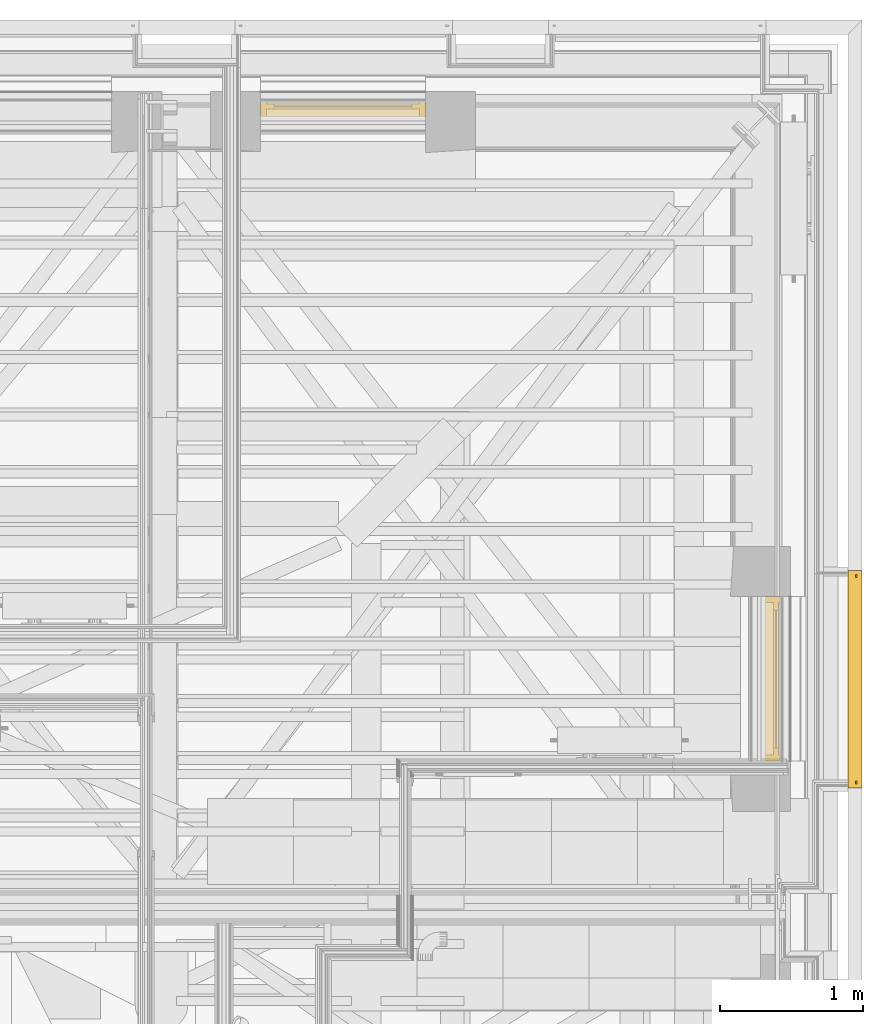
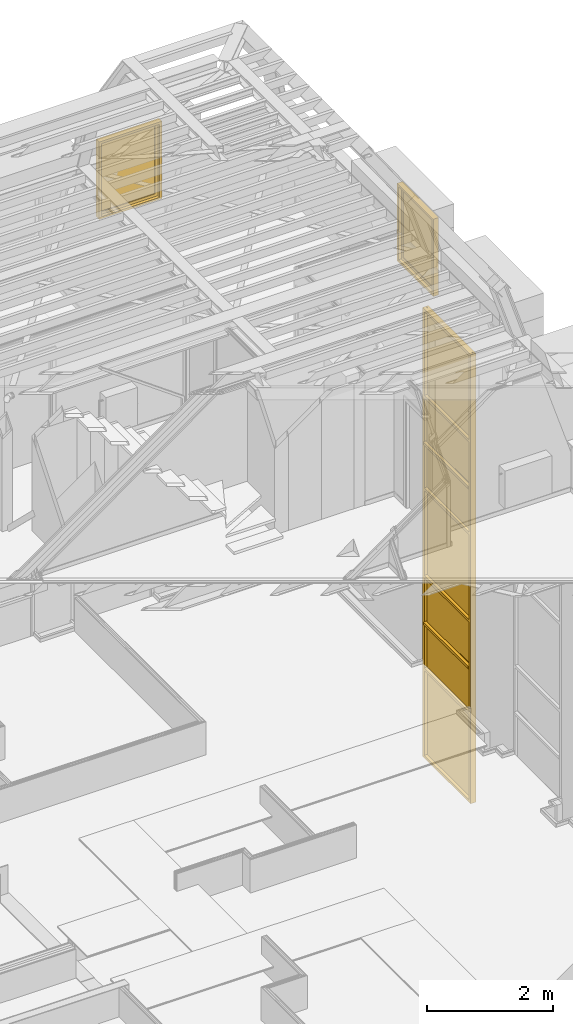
# One storey, part 155 of 183: 2 windows, 1 curtain wall.
"""IFC2X3 building model written with IfcOpenShell, lengths in metres."""

from ifc_helpers import new_model, entity, si_unit, converted_unit, derived_unit, money_unit, direction, frame, origin_with_axes, place, context, subcontext, project, spatial, faceted_brep, material, type_object, element, save


model = new_model("IFC2X3")

# Units and contexts
model_context = context("Model", 3, precision=1e-05, world=origin_with_axes(), true_north=direction((0.0, 1.0)))
body_context = subcontext(model_context, "Body", "Model", "MODEL_VIEW", scale=1.0)
ifc_project = project(units=[si_unit("LENGTHUNIT", "METRE"), si_unit("AREAUNIT", "SQUARE_METRE"), si_unit("VOLUMEUNIT", "CUBIC_METRE"), si_unit("ABSORBEDDOSEUNIT", "GRAY"), si_unit("AMOUNTOFSUBSTANCEUNIT", "MOLE"), si_unit("DOSEEQUIVALENTUNIT", "SIEVERT"), si_unit("ELECTRICCAPACITANCEUNIT", "FARAD"), si_unit("ELECTRICCHARGEUNIT", "COULOMB"), si_unit("ELECTRICCONDUCTANCEUNIT", "SIEMENS"), si_unit("ELECTRICCURRENTUNIT", "AMPERE"), si_unit("ELECTRICRESISTANCEUNIT", "OHM"), si_unit("ELECTRICVOLTAGEUNIT", "VOLT"), si_unit("ENERGYUNIT", "JOULE"), si_unit("FORCEUNIT", "NEWTON"), si_unit("FREQUENCYUNIT", "HERTZ"), si_unit("ILLUMINANCEUNIT", "LUX"), si_unit("INDUCTANCEUNIT", "HENRY"), si_unit("LUMINOUSFLUXUNIT", "LUMEN"), si_unit("LUMINOUSINTENSITYUNIT", "CANDELA"), si_unit("MAGNETICFLUXDENSITYUNIT", "TESLA"), si_unit("MAGNETICFLUXUNIT", "WEBER"), si_unit("MASSUNIT", "GRAM"), converted_unit("PLANEANGLEUNIT", "degree", entity("IfcReal", 0.0174532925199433), si_unit("PLANEANGLEUNIT", "RADIAN"), dimensions=[0, 0, 0, 0, 0, 0, 0]), si_unit("POWERUNIT", "WATT"), si_unit("PRESSUREUNIT", "PASCAL"), si_unit("RADIOACTIVITYUNIT", "BECQUEREL"), si_unit("SOLIDANGLEUNIT", "STERADIAN"), si_unit("THERMODYNAMICTEMPERATUREUNIT", "KELVIN"), si_unit("TIMEUNIT", "SECOND"), derived_unit("ACCELERATIONUNIT", [(si_unit("LENGTHUNIT", "METRE"), 1), (si_unit("TIMEUNIT", "SECOND"), -2)]), derived_unit("ANGULARVELOCITYUNIT", [(converted_unit("PLANEANGLEUNIT", "degree", entity("IfcReal", 0.0174532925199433), si_unit("PLANEANGLEUNIT", "RADIAN"), dimensions=[0, 0, 0, 0, 0, 0, 0]), 1), (si_unit("TIMEUNIT", "SECOND"), -1)]), derived_unit("CURVATUREUNIT", [(converted_unit("PLANEANGLEUNIT", "degree", entity("IfcReal", 0.0174532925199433), si_unit("PLANEANGLEUNIT", "RADIAN"), dimensions=[0, 0, 0, 0, 0, 0, 0]), 1), (si_unit("LENGTHUNIT", "METRE"), -1)]), derived_unit("DYNAMICVISCOSITYUNIT", [(si_unit("PRESSUREUNIT", "PASCAL"), 1), (si_unit("TIMEUNIT", "SECOND"), 1)]), derived_unit("HEATFLUXDENSITYUNIT", [(si_unit("POWERUNIT", "WATT"), 1), (si_unit("LENGTHUNIT", "METRE"), -2)]), derived_unit("HEATINGVALUEUNIT", [(si_unit("ENERGYUNIT", "JOULE"), 1), (si_unit("MASSUNIT", "GRAM"), -1)]), derived_unit("INTEGERCOUNTRATEUNIT", [(si_unit("TIMEUNIT", "SECOND"), -1)]), derived_unit("IONCONCENTRATIONUNIT", [(si_unit("MASSUNIT", "GRAM"), 1), (si_unit("VOLUMEUNIT", "CUBIC_METRE"), -1)]), derived_unit("ISOTHERMALMOISTURECAPACITYUNIT", [(si_unit("VOLUMEUNIT", "CUBIC_METRE"), 1), (si_unit("MASSUNIT", "GRAM"), -1)]), derived_unit("KINEMATICVISCOSITYUNIT", [(si_unit("AREAUNIT", "SQUARE_METRE"), 1), (si_unit("TIMEUNIT", "SECOND"), -1)]), derived_unit("LINEARFORCEUNIT", [(si_unit("FORCEUNIT", "NEWTON"), 1), (si_unit("LENGTHUNIT", "METRE"), -1)]), derived_unit("LINEARMOMENTUNIT", [(si_unit("FORCEUNIT", "NEWTON"), 1), (si_unit("LENGTHUNIT", "METRE"), -1)]), derived_unit("LINEARSTIFFNESSUNIT", [(si_unit("FORCEUNIT", "NEWTON"), 1), (si_unit("LENGTHUNIT", "METRE"), -1)]), derived_unit("LINEARVELOCITYUNIT", [(si_unit("LENGTHUNIT", "METRE"), 1), (si_unit("TIMEUNIT", "SECOND"), -1)]), derived_unit("LUMINOUSINTENSITYDISTRIBUTIONUNIT", [(si_unit("LUMINOUSINTENSITYUNIT", "CANDELA"), 1), (si_unit("LUMINOUSFLUXUNIT", "LUMEN"), -1)]), derived_unit("MASSDENSITYUNIT", [(si_unit("MASSUNIT", "GRAM"), 1), (si_unit("VOLUMEUNIT", "CUBIC_METRE"), -1)]), derived_unit("MASSFLOWRATEUNIT", [(si_unit("MASSUNIT", "GRAM"), 1), (si_unit("TIMEUNIT", "SECOND"), -1)]), derived_unit("MASSPERLENGTHUNIT", [(si_unit("MASSUNIT", "GRAM"), 1), (si_unit("LENGTHUNIT", "METRE"), -1)]), derived_unit("MODULUSOFELASTICITYUNIT", [(si_unit("FORCEUNIT", "NEWTON"), 1), (si_unit("AREAUNIT", "SQUARE_METRE"), -1)]), derived_unit("MODULUSOFLINEARSUBGRADEREACTIONUNIT", [(si_unit("FORCEUNIT", "NEWTON"), 1), (si_unit("LENGTHUNIT", "METRE"), -2)]), derived_unit("MODULUSOFROTATIONALSUBGRADEREACTIONUNIT", [(si_unit("FORCEUNIT", "NEWTON"), 1), (si_unit("LENGTHUNIT", "METRE"), 1)]), derived_unit("MODULUSOFSUBGRADEREACTIONUNIT", [(si_unit("FORCEUNIT", "NEWTON"), 1), (si_unit("VOLUMEUNIT", "CUBIC_METRE"), -1)]), derived_unit("MOISTUREDIFFUSIVITYUNIT", [(si_unit("VOLUMEUNIT", "CUBIC_METRE"), 1), (si_unit("TIMEUNIT", "SECOND"), -1)]), derived_unit("MOLECULARWEIGHTUNIT", [(si_unit("MASSUNIT", "GRAM"), 1), (si_unit("AMOUNTOFSUBSTANCEUNIT", "MOLE"), -1)]), derived_unit("PLANARFORCEUNIT", [(si_unit("FORCEUNIT", "NEWTON"), 1), (si_unit("LENGTHUNIT", "METRE"), -2)]), derived_unit("ROTATIONALFREQUENCYUNIT", [(si_unit("TIMEUNIT", "SECOND"), -1)]), derived_unit("ROTATIONALMASSUNIT", [(si_unit("MASSUNIT", "GRAM"), 1), (si_unit("LENGTHUNIT", "METRE"), 2)]), derived_unit("ROTATIONALSTIFFNESSUNIT", [(si_unit("FORCEUNIT", "NEWTON"), 1), (si_unit("LENGTHUNIT", "METRE"), 1), (converted_unit("PLANEANGLEUNIT", "degree", entity("IfcReal", 0.0174532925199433), si_unit("PLANEANGLEUNIT", "RADIAN"), dimensions=[0, 0, 0, 0, 0, 0, 0]), -1)]), derived_unit("SECTIONAREAINTEGRALUNIT", [(si_unit("LENGTHUNIT", "METRE"), 5)]), derived_unit("SECTIONMODULUSUNIT", [(si_unit("LENGTHUNIT", "METRE"), 3)]), derived_unit("SHEARMODULUSUNIT", [(si_unit("FORCEUNIT", "NEWTON"), 1), (si_unit("AREAUNIT", "SQUARE_METRE"), -1)]), derived_unit("SOUNDPOWERUNIT", [(si_unit("ENERGYUNIT", "JOULE"), 1), (si_unit("TIMEUNIT", "SECOND"), -1)]), derived_unit("SPECIFICHEATCAPACITYUNIT", [(si_unit("FORCEUNIT", "NEWTON"), 1), (si_unit("MASSUNIT", "GRAM"), -1), (si_unit("THERMODYNAMICTEMPERATUREUNIT", "KELVIN"), -1)]), derived_unit("TEMPERATUREGRADIENTUNIT", [(si_unit("THERMODYNAMICTEMPERATUREUNIT", "KELVIN"), 1), (si_unit("LENGTHUNIT", "METRE"), -1)]), derived_unit("THERMALADMITTANCEUNIT", [(si_unit("POWERUNIT", "WATT"), 1), (si_unit("AREAUNIT", "SQUARE_METRE"), -1), (si_unit("THERMODYNAMICTEMPERATUREUNIT", "KELVIN"), -1)]), derived_unit("THERMALCONDUCTANCEUNIT", [(si_unit("POWERUNIT", "WATT"), 1), (si_unit("LENGTHUNIT", "METRE"), -1), (si_unit("THERMODYNAMICTEMPERATUREUNIT", "KELVIN"), -1)]), derived_unit("THERMALEXPANSIONCOEFFICIENTUNIT", [(si_unit("THERMODYNAMICTEMPERATUREUNIT", "KELVIN"), -1)]), derived_unit("THERMALRESISTANCEUNIT", [(si_unit("AREAUNIT", "SQUARE_METRE"), 1), (si_unit("POWERUNIT", "WATT"), -1)]), derived_unit("THERMALTRANSMITTANCEUNIT", [(si_unit("POWERUNIT", "WATT"), 1), (si_unit("AREAUNIT", "SQUARE_METRE"), -1), (si_unit("THERMODYNAMICTEMPERATUREUNIT", "KELVIN"), -1)]), derived_unit("TORQUEUNIT", [(si_unit("FORCEUNIT", "NEWTON"), 1), (si_unit("LENGTHUNIT", "METRE"), 1)]), derived_unit("VAPORPERMEABILITYUNIT", [(si_unit("MASSUNIT", "GRAM"), 1), (si_unit("TIMEUNIT", "SECOND"), -1)]), derived_unit("VOLUMETRICFLOWRATEUNIT", [(si_unit("VOLUMEUNIT", "CUBIC_METRE"), 1), (si_unit("TIMEUNIT", "SECOND"), -1)]), derived_unit("WARPINGCONSTANTUNIT", [(si_unit("LENGTHUNIT", "METRE"), 6)]), derived_unit("WARPINGMOMENTUNIT", [(si_unit("FORCEUNIT", "NEWTON"), 1), (si_unit("LENGTHUNIT", "METRE"), 2)]), money_unit("GBP")], contexts=[model_context])

# Site, building, storey
site_placement = place(None, origin_with_axes())
site = spatial("IfcSite", under=ifc_project, at=site_placement, Name="Site", CompositionType="ELEMENT")
building_placement = place(site_placement, origin_with_axes())
building = spatial("IfcBuilding", under=site, at=building_placement, Name="Building01", CompositionType="ELEMENT")
storey_placement = place(building_placement, frame((0.0, 0.0, 5.15), z_axis=(0.0, 0.0, 1.0), x_axis=(1.0, 0.0, 0.0)))
storey = spatial("IfcBuildingStorey", under=building, at=storey_placement, Name="1F", CompositionType="ELEMENT", Elevation=5.15)

# Curtain wall
ifc_material_1 = material(Name="A-CurtainWall_Frame")
curtain_wall_type = type_object("IfcCurtainWallType", Name="Pattern - Maximum Spacing", PredefinedType="NOTDEFINED")
curtain_wall_placement = place(storey_placement, frame((0.0, 0.0, -5.15), z_axis=(0.0, 0.0, 1.0), x_axis=(1.0, 0.0, 0.0)))
element("IfcCurtainWall", 1, at=curtain_wall_placement, inside=storey, type_object=curtain_wall_type, material=ifc_material_1, Name="30", ObjectType="Pattern - Maximum Spacing", context=body_context, shape_type="Brep", body=[
    faceted_brep([(26.935, 9.56718, 6.045508), (26.945, 9.56718, 6.045508), (26.945, 9.56718, 7.729632), (26.935, 9.56718, 7.729632), (26.935, 11.02718, 6.045508), (26.945, 11.02718, 6.045508), (26.935, 11.02718, 7.729632), (26.945, 11.02718, 7.729632)], [[[0, 1, 2, 3]], [[4, 5, 1, 0]], [[6, 7, 5, 4]], [[3, 2, 7, 6]], [[1, 5, 7, 2]], [[3, 6, 4, 0]]]),
    faceted_brep([(26.935, 9.56718, 6.015508), (26.945, 9.56718, 6.015508), (26.945, 9.58718, 6.015508), (26.98, 9.58718, 6.015508), (26.98, 9.53718, 6.015508), (26.88, 9.53718, 6.015508), (26.88, 9.58718, 6.015508), (26.935, 9.58718, 6.015508), (26.935, 9.58718, 7.734632), (26.935, 9.56718, 7.734632), (26.945, 9.56718, 7.734632), (26.945, 9.58718, 7.734632), (26.98, 9.58718, 7.734632), (26.98, 9.53718, 7.734632), (26.88, 9.53718, 7.734632), (26.88, 9.58718, 7.734632)], [[[0, 1, 2, 3, 4, 5, 6, 7]], [[7, 8, 9, 0]], [[0, 9, 10, 1]], [[1, 10, 11, 2]], [[2, 11, 12, 3]], [[3, 12, 13, 4]], [[4, 13, 14, 5]], [[5, 14, 15, 6]], [[6, 15, 8, 7]]]),
    faceted_brep([(26.935, 11.00718, 6.045508), (26.945, 11.00718, 6.045508), (26.945, 11.00718, 6.065508), (26.98, 11.00718, 6.065508), (26.98, 11.00718, 6.015508), (26.88, 11.00718, 6.015508), (26.88, 11.00718, 6.065508), (26.935, 11.00718, 6.065508), (26.935, 9.58718, 6.065508), (26.935, 9.58718, 6.045508), (26.945, 9.58718, 6.045508), (26.945, 9.58718, 6.065508), (26.98, 9.58718, 6.065508), (26.98, 9.58718, 6.015508), (26.88, 9.58718, 6.015508), (26.88, 9.58718, 6.065508)], [[[0, 1, 2, 3, 4, 5, 6, 7]], [[7, 8, 9, 0]], [[0, 9, 10, 1]], [[1, 10, 11, 2]], [[2, 11, 12, 3]], [[3, 12, 13, 4]], [[4, 13, 14, 5]], [[5, 14, 15, 6]], [[6, 15, 8, 7]], [[8, 15, 14, 13, 12, 11, 10, 9]]]),
    faceted_brep([(26.88, 11.00718, 6.015508), (26.88, 11.00718, 7.734632), (26.88, 11.05718, 7.734632), (26.88, 11.05718, 6.015508), (26.935, 11.00718, 6.015508), (26.935, 11.00718, 7.734632), (26.935, 11.02718, 6.015508), (26.935, 11.02718, 7.734632), (26.945, 11.02718, 6.015508), (26.945, 11.02718, 7.734632), (26.945, 11.00718, 6.015508), (26.945, 11.00718, 7.734632), (26.98, 11.00718, 6.015508), (26.98, 11.00718, 7.734632), (26.98, 11.05718, 6.015508), (26.98, 11.05718, 7.734632)], [[[0, 1, 2, 3]], [[4, 5, 1, 0]], [[6, 7, 5, 4]], [[8, 9, 7, 6]], [[10, 11, 9, 8]], [[12, 13, 11, 10]], [[14, 15, 13, 12]], [[3, 2, 15, 14]], [[14, 12, 10, 8, 6, 4, 0, 3]]]),
    faceted_brep([(26.935, 9.58718, 7.729632), (26.945, 9.58718, 7.729632), (26.945, 9.58718, 7.709632), (26.98, 9.58718, 7.709632), (26.98, 9.58718, 7.759632), (26.945, 9.58718, 7.759632), (26.945, 9.58718, 7.739632), (26.935, 9.58718, 7.739632), (26.935, 9.58718, 7.759632), (26.88, 9.58718, 7.759632), (26.88, 9.58718, 7.709632), (26.935, 9.58718, 7.709632), (26.935, 11.00718, 7.709632), (26.935, 11.00718, 7.729632), (26.945, 11.00718, 7.729632), (26.945, 11.00718, 7.709632), (26.98, 11.00718, 7.709632), (26.98, 11.00718, 7.759632), (26.945, 11.00718, 7.759632), (26.935, 11.00718, 7.739632), (26.935, 11.00718, 7.759632), (26.945, 11.00718, 7.739632), (26.88, 11.00718, 7.709632), (26.88, 11.00718, 7.759632)], [[[0, 1, 2, 3, 4, 5, 6, 7, 8, 9, 10, 11]], [[11, 12, 13, 0]], [[0, 13, 14, 1]], [[1, 14, 15, 2]], [[2, 15, 16, 3]], [[3, 16, 17, 4]], [[4, 17, 18, 5]], [[7, 19, 20, 8]], [[6, 21, 19, 7]], [[5, 18, 21, 6]], [[10, 22, 12, 11]], [[9, 23, 22, 10]], [[8, 20, 23, 9]], [[20, 19, 21, 18, 17, 16, 15, 14, 13, 12, 22, 23]]]),
    faceted_brep([(26.93, 9.56718, 7.739632), (26.95, 9.56718, 7.739632), (26.95, 9.56718, 8.626522), (26.93, 9.56718, 8.626522), (26.93, 11.02718, 7.739632), (26.95, 11.02718, 7.739632), (26.93, 11.02718, 8.626522), (26.95, 11.02718, 8.626522)], [[[0, 1, 2, 3]], [[4, 5, 1, 0]], [[6, 7, 5, 4]], [[3, 2, 7, 6]], [[1, 5, 7, 2]], [[3, 6, 4, 0]]]),
    faceted_brep([(26.88, 9.58718, 8.631522), (26.88, 9.58718, 7.734632), (26.88, 9.53718, 7.734632), (26.88, 9.53718, 8.631522), (26.935, 9.58718, 8.631522), (26.935, 9.58718, 7.734632), (26.935, 9.56718, 8.631522), (26.935, 9.56718, 7.734632), (26.945, 9.56718, 8.631522), (26.945, 9.56718, 7.734632), (26.945, 9.58718, 8.631522), (26.945, 9.58718, 7.734632), (26.98, 9.58718, 8.631522), (26.98, 9.58718, 7.734632), (26.98, 9.53718, 8.631522), (26.98, 9.53718, 7.734632)], [[[0, 1, 2, 3]], [[4, 5, 1, 0]], [[6, 7, 5, 4]], [[8, 9, 7, 6]], [[10, 11, 9, 8]], [[12, 13, 11, 10]], [[14, 15, 13, 12]], [[3, 2, 15, 14]]]),
    faceted_brep([(26.88, 11.00718, 7.734632), (26.88, 11.00718, 8.631522), (26.88, 11.05718, 8.631522), (26.88, 11.05718, 7.734632), (26.935, 11.00718, 7.734632), (26.935, 11.00718, 8.631522), (26.935, 11.02718, 7.734632), (26.935, 11.02718, 8.631522), (26.945, 11.02718, 7.734632), (26.945, 11.02718, 8.631522), (26.945, 11.00718, 7.734632), (26.945, 11.00718, 8.631522), (26.98, 11.00718, 7.734632), (26.98, 11.00718, 8.631522), (26.98, 11.05718, 7.734632), (26.98, 11.05718, 8.631522)], [[[0, 1, 2, 3]], [[4, 5, 1, 0]], [[6, 7, 5, 4]], [[8, 9, 7, 6]], [[10, 11, 9, 8]], [[12, 13, 11, 10]], [[14, 15, 13, 12]], [[3, 2, 15, 14]]]),
    faceted_brep([(26.9175, 9.58718, 8.626522), (26.9275, 9.58718, 8.626522), (26.9275, 9.58718, 8.606522), (26.9625, 9.58718, 8.606522), (26.9625, 9.58718, 8.656522), (26.9275, 9.58718, 8.656522), (26.9275, 9.58718, 8.636522), (26.9175, 9.58718, 8.636522), (26.9175, 9.58718, 8.656522), (26.8625, 9.58718, 8.656522), (26.8625, 9.58718, 8.606522), (26.9175, 9.58718, 8.606522), (26.9175, 11.00718, 8.606522), (26.9175, 11.00718, 8.626522), (26.9275, 11.00718, 8.626522), (26.9275, 11.00718, 8.606522), (26.9625, 11.00718, 8.606522), (26.9625, 11.00718, 8.656522), (26.9275, 11.00718, 8.656522), (26.9175, 11.00718, 8.636522), (26.9175, 11.00718, 8.656522), (26.9275, 11.00718, 8.636522), (26.8625, 11.00718, 8.606522), (26.8625, 11.00718, 8.656522)], [[[0, 1, 2, 3, 4, 5, 6, 7, 8, 9, 10, 11]], [[11, 12, 13, 0]], [[0, 13, 14, 1]], [[1, 14, 15, 2]], [[2, 15, 16, 3]], [[3, 16, 17, 4]], [[4, 17, 18, 5]], [[7, 19, 20, 8]], [[6, 21, 19, 7]], [[5, 18, 21, 6]], [[10, 22, 12, 11]], [[9, 23, 22, 10]], [[8, 20, 23, 9]], [[20, 19, 21, 18, 17, 16, 15, 14, 13, 12, 22, 23]]]),
    faceted_brep([(26.93, 9.56718, 8.636522), (26.95, 9.56718, 8.636522), (26.95, 9.56718, 9.523411), (26.93, 9.56718, 9.523411), (26.93, 11.02718, 8.636522), (26.95, 11.02718, 8.636522), (26.93, 11.02718, 9.523411), (26.95, 11.02718, 9.523411)], [[[0, 1, 2, 3]], [[4, 5, 1, 0]], [[6, 7, 5, 4]], [[3, 2, 7, 6]], [[1, 5, 7, 2]], [[3, 6, 4, 0]]]),
    faceted_brep([(26.88, 9.58718, 9.528411), (26.88, 9.58718, 8.631522), (26.88, 9.53718, 8.631522), (26.88, 9.53718, 9.528411), (26.935, 9.58718, 9.528411), (26.935, 9.58718, 8.631522), (26.935, 9.56718, 9.528411), (26.935, 9.56718, 8.631522), (26.945, 9.56718, 9.528411), (26.945, 9.56718, 8.631522), (26.945, 9.58718, 9.528411), (26.945, 9.58718, 8.631522), (26.98, 9.58718, 9.528411), (26.98, 9.58718, 8.631522), (26.98, 9.53718, 9.528411), (26.98, 9.53718, 8.631522)], [[[0, 1, 2, 3]], [[4, 5, 1, 0]], [[6, 7, 5, 4]], [[8, 9, 7, 6]], [[10, 11, 9, 8]], [[12, 13, 11, 10]], [[14, 15, 13, 12]], [[3, 2, 15, 14]]]),
    faceted_brep([(26.88, 11.00718, 8.631522), (26.88, 11.00718, 9.528411), (26.88, 11.05718, 9.528411), (26.88, 11.05718, 8.631522), (26.935, 11.00718, 8.631522), (26.935, 11.00718, 9.528411), (26.935, 11.02718, 8.631522), (26.935, 11.02718, 9.528411), (26.945, 11.02718, 8.631522), (26.945, 11.02718, 9.528411), (26.945, 11.00718, 8.631522), (26.945, 11.00718, 9.528411), (26.98, 11.00718, 8.631522), (26.98, 11.00718, 9.528411), (26.98, 11.05718, 8.631522), (26.98, 11.05718, 9.528411)], [[[0, 1, 2, 3]], [[4, 5, 1, 0]], [[6, 7, 5, 4]], [[8, 9, 7, 6]], [[10, 11, 9, 8]], [[12, 13, 11, 10]], [[14, 15, 13, 12]], [[3, 2, 15, 14]]]),
    faceted_brep([(26.935, 9.58718, 9.523411), (26.945, 9.58718, 9.523411), (26.945, 9.58718, 9.503411), (26.98, 9.58718, 9.503411), (26.98, 9.58718, 9.553411), (26.945, 9.58718, 9.553411), (26.945, 9.58718, 9.533411), (26.935, 9.58718, 9.533411), (26.935, 9.58718, 9.553411), (26.88, 9.58718, 9.553411), (26.88, 9.58718, 9.503411), (26.935, 9.58718, 9.503411), (26.935, 11.00718, 9.503411), (26.935, 11.00718, 9.523411), (26.945, 11.00718, 9.523411), (26.945, 11.00718, 9.503411), (26.98, 11.00718, 9.503411), (26.98, 11.00718, 9.553411), (26.945, 11.00718, 9.553411), (26.935, 11.00718, 9.533411), (26.935, 11.00718, 9.553411), (26.945, 11.00718, 9.533411), (26.88, 11.00718, 9.503411), (26.88, 11.00718, 9.553411)], [[[0, 1, 2, 3, 4, 5, 6, 7, 8, 9, 10, 11]], [[11, 12, 13, 0]], [[0, 13, 14, 1]], [[1, 14, 15, 2]], [[2, 15, 16, 3]], [[3, 16, 17, 4]], [[4, 17, 18, 5]], [[7, 19, 20, 8]], [[6, 21, 19, 7]], [[5, 18, 21, 6]], [[10, 22, 12, 11]], [[9, 23, 22, 10]], [[8, 20, 23, 9]], [[20, 19, 21, 18, 17, 16, 15, 14, 13, 12, 22, 23]]]),
    faceted_brep([(26.935, 9.56718, 9.533411), (26.945, 9.56718, 9.533411), (26.945, 9.56718, 11.217536), (26.935, 9.56718, 11.217536), (26.935, 11.02718, 9.533411), (26.945, 11.02718, 9.533411), (26.935, 11.02718, 11.217536), (26.945, 11.02718, 11.217536)], [[[0, 1, 2, 3]], [[4, 5, 1, 0]], [[6, 7, 5, 4]], [[3, 2, 7, 6]], [[1, 5, 7, 2]], [[3, 6, 4, 0]]]),
    faceted_brep([(26.88, 9.58718, 11.222536), (26.88, 9.58718, 9.528411), (26.88, 9.53718, 9.528411), (26.88, 9.53718, 11.222536), (26.935, 9.58718, 11.222536), (26.935, 9.58718, 9.528411), (26.935, 9.56718, 11.222536), (26.935, 9.56718, 9.528411), (26.945, 9.56718, 11.222536), (26.945, 9.56718, 9.528411), (26.945, 9.58718, 11.222536), (26.945, 9.58718, 9.528411), (26.98, 9.58718, 11.222536), (26.98, 9.58718, 9.528411), (26.98, 9.53718, 11.222536), (26.98, 9.53718, 9.528411)], [[[0, 1, 2, 3]], [[4, 5, 1, 0]], [[6, 7, 5, 4]], [[8, 9, 7, 6]], [[10, 11, 9, 8]], [[12, 13, 11, 10]], [[14, 15, 13, 12]], [[3, 2, 15, 14]]]),
    faceted_brep([(26.88, 11.00718, 9.528411), (26.88, 11.00718, 11.222536), (26.88, 11.05718, 11.222536), (26.88, 11.05718, 9.528411), (26.935, 11.00718, 9.528411), (26.935, 11.00718, 11.222536), (26.935, 11.02718, 9.528411), (26.935, 11.02718, 11.222536), (26.945, 11.02718, 9.528411), (26.945, 11.02718, 11.222536), (26.945, 11.00718, 9.528411), (26.945, 11.00718, 11.222536), (26.98, 11.00718, 9.528411), (26.98, 11.00718, 11.222536), (26.98, 11.05718, 9.528411), (26.98, 11.05718, 11.222536)], [[[0, 1, 2, 3]], [[4, 5, 1, 0]], [[6, 7, 5, 4]], [[8, 9, 7, 6]], [[10, 11, 9, 8]], [[12, 13, 11, 10]], [[14, 15, 13, 12]], [[3, 2, 15, 14]]]),
    faceted_brep([(26.935, 9.58718, 11.217536), (26.945, 9.58718, 11.217536), (26.945, 9.58718, 11.197536), (26.98, 9.58718, 11.197536), (26.98, 9.58718, 11.247536), (26.945, 9.58718, 11.247536), (26.945, 9.58718, 11.227536), (26.935, 9.58718, 11.227536), (26.935, 9.58718, 11.247536), (26.88, 9.58718, 11.247536), (26.88, 9.58718, 11.197536), (26.935, 9.58718, 11.197536), (26.935, 11.00718, 11.197536), (26.935, 11.00718, 11.217536), (26.945, 11.00718, 11.217536), (26.945, 11.00718, 11.197536), (26.98, 11.00718, 11.197536), (26.98, 11.00718, 11.247536), (26.945, 11.00718, 11.247536), (26.935, 11.00718, 11.227536), (26.935, 11.00718, 11.247536), (26.945, 11.00718, 11.227536), (26.88, 11.00718, 11.197536), (26.88, 11.00718, 11.247536)], [[[0, 1, 2, 3, 4, 5, 6, 7, 8, 9, 10, 11]], [[11, 12, 13, 0]], [[0, 13, 14, 1]], [[1, 14, 15, 2]], [[2, 15, 16, 3]], [[3, 16, 17, 4]], [[4, 17, 18, 5]], [[7, 19, 20, 8]], [[6, 21, 19, 7]], [[5, 18, 21, 6]], [[10, 22, 12, 11]], [[9, 23, 22, 10]], [[8, 20, 23, 9]], [[20, 19, 21, 18, 17, 16, 15, 14, 13, 12, 22, 23]]]),
    faceted_brep([(26.93, 9.56718, 11.227536), (26.95, 9.56718, 11.227536), (26.95, 9.56718, 12.114425), (26.93, 9.56718, 12.114425), (26.93, 11.02718, 11.227536), (26.95, 11.02718, 11.227536), (26.93, 11.02718, 12.114425), (26.95, 11.02718, 12.114425)], [[[0, 1, 2, 3]], [[4, 5, 1, 0]], [[6, 7, 5, 4]], [[3, 2, 7, 6]], [[1, 5, 7, 2]], [[3, 6, 4, 0]]]),
    faceted_brep([(26.88, 9.58718, 12.119425), (26.88, 9.58718, 11.222536), (26.88, 9.53718, 11.222536), (26.88, 9.53718, 12.119425), (26.935, 9.58718, 12.119425), (26.935, 9.58718, 11.222536), (26.935, 9.56718, 12.119425), (26.935, 9.56718, 11.222536), (26.945, 9.56718, 12.119425), (26.945, 9.56718, 11.222536), (26.945, 9.58718, 12.119425), (26.945, 9.58718, 11.222536), (26.98, 9.58718, 12.119425), (26.98, 9.58718, 11.222536), (26.98, 9.53718, 12.119425), (26.98, 9.53718, 11.222536)], [[[0, 1, 2, 3]], [[4, 5, 1, 0]], [[6, 7, 5, 4]], [[8, 9, 7, 6]], [[10, 11, 9, 8]], [[12, 13, 11, 10]], [[14, 15, 13, 12]], [[3, 2, 15, 14]]]),
    faceted_brep([(26.88, 11.00718, 11.222536), (26.88, 11.00718, 12.119425), (26.88, 11.05718, 12.119425), (26.88, 11.05718, 11.222536), (26.935, 11.00718, 11.222536), (26.935, 11.00718, 12.119425), (26.935, 11.02718, 11.222536), (26.935, 11.02718, 12.119425), (26.945, 11.02718, 11.222536), (26.945, 11.02718, 12.119425), (26.945, 11.00718, 11.222536), (26.945, 11.00718, 12.119425), (26.98, 11.00718, 11.222536), (26.98, 11.00718, 12.119425), (26.98, 11.05718, 11.222536), (26.98, 11.05718, 12.119425)], [[[0, 1, 2, 3]], [[4, 5, 1, 0]], [[6, 7, 5, 4]], [[8, 9, 7, 6]], [[10, 11, 9, 8]], [[12, 13, 11, 10]], [[14, 15, 13, 12]], [[3, 2, 15, 14]]]),
    faceted_brep([(26.9175, 9.58718, 12.114425), (26.9275, 9.58718, 12.114425), (26.9275, 9.58718, 12.094425), (26.9625, 9.58718, 12.094425), (26.9625, 9.58718, 12.144425), (26.9275, 9.58718, 12.144425), (26.9275, 9.58718, 12.124425), (26.9175, 9.58718, 12.124425), (26.9175, 9.58718, 12.144425), (26.8625, 9.58718, 12.144425), (26.8625, 9.58718, 12.094425), (26.9175, 9.58718, 12.094425), (26.9175, 11.00718, 12.094425), (26.9175, 11.00718, 12.114425), (26.9275, 11.00718, 12.114425), (26.9275, 11.00718, 12.094425), (26.9625, 11.00718, 12.094425), (26.9625, 11.00718, 12.144425), (26.9275, 11.00718, 12.144425), (26.9175, 11.00718, 12.124425), (26.9175, 11.00718, 12.144425), (26.9275, 11.00718, 12.124425), (26.8625, 11.00718, 12.094425), (26.8625, 11.00718, 12.144425)], [[[0, 1, 2, 3, 4, 5, 6, 7, 8, 9, 10, 11]], [[11, 12, 13, 0]], [[0, 13, 14, 1]], [[1, 14, 15, 2]], [[2, 15, 16, 3]], [[3, 16, 17, 4]], [[4, 17, 18, 5]], [[7, 19, 20, 8]], [[6, 21, 19, 7]], [[5, 18, 21, 6]], [[10, 22, 12, 11]], [[9, 23, 22, 10]], [[8, 20, 23, 9]], [[20, 19, 21, 18, 17, 16, 15, 14, 13, 12, 22, 23]]]),
    faceted_brep([(26.935, 11.02718, 14.685508), (26.945, 11.02718, 14.685508), (26.945, 11.02718, 13.021314), (26.935, 11.02718, 13.021314), (26.935, 9.56718, 14.685508), (26.945, 9.56718, 14.685508), (26.935, 9.56718, 13.021314), (26.945, 9.56718, 13.021314)], [[[0, 1, 2, 3]], [[4, 5, 1, 0]], [[6, 7, 5, 4]], [[3, 2, 7, 6]], [[1, 5, 7, 2]], [[3, 6, 4, 0]]]),
    faceted_brep([(26.88, 11.00718, 14.715508), (26.935, 11.00718, 14.715508), (26.935, 11.02718, 14.715508), (26.945, 11.02718, 14.715508), (26.945, 11.00718, 14.715508), (26.98, 11.00718, 14.715508), (26.98, 11.05718, 14.715508), (26.88, 11.05718, 14.715508), (26.88, 11.05718, 13.016314), (26.88, 11.00718, 13.016314), (26.935, 11.00718, 13.016314), (26.935, 11.02718, 13.016314), (26.945, 11.02718, 13.016314), (26.945, 11.00718, 13.016314), (26.98, 11.00718, 13.016314), (26.98, 11.05718, 13.016314)], [[[0, 1, 2, 3, 4, 5, 6, 7]], [[7, 8, 9, 0]], [[0, 9, 10, 1]], [[1, 10, 11, 2]], [[2, 11, 12, 3]], [[3, 12, 13, 4]], [[4, 13, 14, 5]], [[5, 14, 15, 6]], [[6, 15, 8, 7]]]),
    faceted_brep([(26.88, 9.58718, 14.665508), (26.935, 9.58718, 14.665508), (26.935, 9.58718, 14.685508), (26.945, 9.58718, 14.685508), (26.945, 9.58718, 14.665508), (26.98, 9.58718, 14.665508), (26.98, 9.58718, 14.715508), (26.88, 9.58718, 14.715508), (26.88, 11.00718, 14.715508), (26.88, 11.00718, 14.665508), (26.935, 11.00718, 14.665508), (26.935, 11.00718, 14.685508), (26.945, 11.00718, 14.685508), (26.945, 11.00718, 14.665508), (26.98, 11.00718, 14.665508), (26.98, 11.00718, 14.715508)], [[[0, 1, 2, 3, 4, 5, 6, 7]], [[7, 8, 9, 0]], [[0, 9, 10, 1]], [[1, 10, 11, 2]], [[2, 11, 12, 3]], [[3, 12, 13, 4]], [[4, 13, 14, 5]], [[5, 14, 15, 6]], [[6, 15, 8, 7]], [[8, 15, 14, 13, 12, 11, 10, 9]]]),
    faceted_brep([(26.935, 9.56718, 14.715508), (26.935, 9.56718, 13.016314), (26.935, 9.58718, 13.016314), (26.935, 9.58718, 14.715508), (26.945, 9.56718, 14.715508), (26.945, 9.56718, 13.016314), (26.945, 9.58718, 14.715508), (26.945, 9.58718, 13.016314), (26.98, 9.58718, 14.715508), (26.98, 9.58718, 13.016314), (26.98, 9.53718, 14.715508), (26.98, 9.53718, 13.016314), (26.88, 9.53718, 14.715508), (26.88, 9.53718, 13.016314), (26.88, 9.58718, 14.715508), (26.88, 9.58718, 13.016314)], [[[0, 1, 2, 3]], [[4, 5, 1, 0]], [[6, 7, 5, 4]], [[8, 9, 7, 6]], [[10, 11, 9, 8]], [[12, 13, 11, 10]], [[14, 15, 13, 12]], [[3, 2, 15, 14]], [[14, 12, 10, 8, 6, 4, 0, 3]]]),
    faceted_brep([(26.945, 11.00718, 13.011314), (26.935, 11.00718, 13.011314), (26.935, 11.00718, 12.991314), (26.88, 11.00718, 12.991314), (26.88, 11.00718, 13.041314), (26.935, 11.00718, 13.041314), (26.935, 11.00718, 13.021314), (26.945, 11.00718, 13.021314), (26.945, 11.00718, 13.041314), (26.98, 11.00718, 13.041314), (26.98, 11.00718, 12.991314), (26.945, 11.00718, 12.991314), (26.945, 9.58718, 12.991314), (26.945, 9.58718, 13.011314), (26.935, 9.58718, 13.011314), (26.935, 9.58718, 12.991314), (26.88, 9.58718, 12.991314), (26.88, 9.58718, 13.041314), (26.935, 9.58718, 13.041314), (26.945, 9.58718, 13.021314), (26.945, 9.58718, 13.041314), (26.935, 9.58718, 13.021314), (26.98, 9.58718, 12.991314), (26.98, 9.58718, 13.041314)], [[[0, 1, 2, 3, 4, 5, 6, 7, 8, 9, 10, 11]], [[11, 12, 13, 0]], [[0, 13, 14, 1]], [[1, 14, 15, 2]], [[2, 15, 16, 3]], [[3, 16, 17, 4]], [[4, 17, 18, 5]], [[7, 19, 20, 8]], [[6, 21, 19, 7]], [[5, 18, 21, 6]], [[10, 22, 12, 11]], [[9, 23, 22, 10]], [[8, 20, 23, 9]], [[20, 19, 21, 18, 17, 16, 15, 14, 13, 12, 22, 23]]]),
    faceted_brep([(26.93, 9.56718, 12.124425), (26.95, 9.56718, 12.124425), (26.95, 9.56718, 13.011314), (26.93, 9.56718, 13.011314), (26.93, 11.02718, 12.124425), (26.95, 11.02718, 12.124425), (26.93, 11.02718, 13.011314), (26.95, 11.02718, 13.011314)], [[[0, 1, 2, 3]], [[4, 5, 1, 0]], [[6, 7, 5, 4]], [[3, 2, 7, 6]], [[1, 5, 7, 2]], [[3, 6, 4, 0]]]),
    faceted_brep([(26.88, 9.58718, 13.016314), (26.88, 9.58718, 12.119425), (26.88, 9.53718, 12.119425), (26.88, 9.53718, 13.016314), (26.935, 9.58718, 13.016314), (26.935, 9.58718, 12.119425), (26.935, 9.56718, 13.016314), (26.935, 9.56718, 12.119425), (26.945, 9.56718, 13.016314), (26.945, 9.56718, 12.119425), (26.945, 9.58718, 13.016314), (26.945, 9.58718, 12.119425), (26.98, 9.58718, 13.016314), (26.98, 9.58718, 12.119425), (26.98, 9.53718, 13.016314), (26.98, 9.53718, 12.119425)], [[[0, 1, 2, 3]], [[4, 5, 1, 0]], [[6, 7, 5, 4]], [[8, 9, 7, 6]], [[10, 11, 9, 8]], [[12, 13, 11, 10]], [[14, 15, 13, 12]], [[3, 2, 15, 14]]]),
    faceted_brep([(26.88, 11.00718, 12.119425), (26.88, 11.00718, 13.016314), (26.88, 11.05718, 13.016314), (26.88, 11.05718, 12.119425), (26.935, 11.00718, 12.119425), (26.935, 11.00718, 13.016314), (26.935, 11.02718, 12.119425), (26.935, 11.02718, 13.016314), (26.945, 11.02718, 12.119425), (26.945, 11.02718, 13.016314), (26.945, 11.00718, 12.119425), (26.945, 11.00718, 13.016314), (26.98, 11.00718, 12.119425), (26.98, 11.00718, 13.016314), (26.98, 11.05718, 12.119425), (26.98, 11.05718, 13.016314)], [[[0, 1, 2, 3]], [[4, 5, 1, 0]], [[6, 7, 5, 4]], [[8, 9, 7, 6]], [[10, 11, 9, 8]], [[12, 13, 11, 10]], [[14, 15, 13, 12]], [[3, 2, 15, 14]]]),
])

# Space
space_1_placement = place(storey_placement, frame((23.178821, 7.549915, 9.81), z_axis=(0.0, 0.0, 1.0), x_axis=(0.0, 1.0, 0.0)))
space_1 = spatial("IfcSpace", under=storey, at=space_1_placement, Name="3", CompositionType="ELEMENT", InteriorOrExteriorSpace="NOTDEFINED")

# Window
ifc_material_2 = material(Name="A_BSUK_Windows")
window_style = type_object("IfcWindowStyle", Name="A-Awning", ConstructionType="NOTDEFINED", OperationType="USERDEFINED", ParameterTakesPrecedence=False, Sizeable=False)
window_1_placement = place(storey_placement, frame((22.780024, 14.350061, 10.78), z_axis=(0.0, 0.0, 1.0), x_axis=(-1.0, 0.0, 0.0)))
element("IfcWindow", 2, at=window_1_placement, inside=space_1, type_object=window_style, material=ifc_material_2, Name="4.23", ObjectType="A-Awning", OverallHeight=1.50000000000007, OverallWidth=1.15000000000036, context=body_context, shape_type="Brep", body=[
    faceted_brep([(-1.108, 0.0254, 0.042), (-0.042, 0.0254, 0.042), (-0.042, 0.1254, 0.042), (-1.108, 0.1254, 0.042), (-1.108, 0.0254, 1.458), (-1.108, 0.1254, 1.458), (-0.042, 0.0254, 1.458), (-0.042, 0.1254, 1.458), (0.0, 0.0254, 0.0), (0.0, 0.0254, 1.5), (-1.15, 0.0254, 1.5), (-1.15, 0.0254, 0.0), (0.0, 0.1254, 1.5), (-1.15, 0.1254, 1.5), (-1.15, 0.1254, 0.0), (0.0, 0.1254, 0.0)], [[[0, 1, 2, 3]], [[4, 0, 3, 5]], [[6, 4, 5, 7]], [[8, 9, 10, 11], [4, 6, 1, 0]], [[1, 6, 7, 2]], [[12, 13, 10, 9]], [[14, 15, 8, 11]], [[13, 14, 11, 10]], [[13, 12, 15, 14], [2, 7, 5, 3]], [[15, 12, 9, 8]]]),
    faceted_brep([(-1.0572, 0.0354, 0.0928), (-0.0928, 0.0354, 0.0928), (-0.0928, 0.0704, 0.0928), (-1.0572, 0.0704, 0.0928), (-1.0572, 0.0354, 1.4072), (-1.0572, 0.0704, 1.4072), (-0.0928, 0.0354, 1.4072), (-0.0928, 0.0704, 1.4072), (-1.108, 0.0704, 1.458), (-0.042, 0.0704, 1.458), (-0.042, 0.0704, 0.042), (-1.108, 0.0704, 0.042), (-1.108, 0.0354, 1.458), (-0.042, 0.0354, 1.458), (-0.042, 0.0354, 0.042), (-1.108, 0.0354, 0.042)], [[[0, 1, 2, 3]], [[4, 0, 3, 5]], [[6, 4, 5, 7]], [[8, 9, 10, 11], [2, 7, 5, 3]], [[9, 8, 12, 13]], [[10, 9, 13, 14]], [[11, 10, 14, 15]], [[8, 11, 15, 12]], [[14, 13, 12, 15], [4, 6, 1, 0]], [[1, 6, 7, 2]]]),
    faceted_brep([(-0.0928, 0.049725, 0.0928), (-0.0928, 0.056075, 0.0928), (-0.0928, 0.056075, 1.4072), (-0.0928, 0.049725, 1.4072), (-1.0572, 0.049725, 1.4072), (-1.0572, 0.056075, 1.4072), (-1.0572, 0.056075, 0.0928), (-1.0572, 0.049725, 0.0928)], [[[0, 1, 2, 3]], [[4, 5, 6, 7]], [[3, 2, 5, 4]], [[3, 4, 7, 0]], [[7, 6, 1, 0]], [[1, 6, 5, 2]]]),
])

# Space
space_2_placement = place(storey_placement, frame((16.03844, 8.82, 9.81), z_axis=(0.0, 0.0, 1.0), x_axis=(0.0, -1.0, 0.0)))
space_2 = spatial("IfcSpace", under=storey, at=space_2_placement, Name="23", CompositionType="ELEMENT", InteriorOrExteriorSpace="NOTDEFINED")

# Window
window_2_placement = place(storey_placement, frame((26.430061, 10.874915, 10.78), z_axis=(0.0, 0.0, 1.0), x_axis=(0.0, 1.0, 0.0)))
element("IfcWindow", 3, at=window_2_placement, inside=space_2, type_object=window_style, material=ifc_material_2, Name="4.24", ObjectType="A-Awning", OverallHeight=1.50000000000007, OverallWidth=1.15000000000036, context=body_context, shape_type="Brep", body=[
    faceted_brep([(-1.108, 0.0254, 0.042), (-0.042, 0.0254, 0.042), (-0.042, 0.1254, 0.042), (-1.108, 0.1254, 0.042), (-1.108, 0.0254, 1.458), (-1.108, 0.1254, 1.458), (-0.042, 0.0254, 1.458), (-0.042, 0.1254, 1.458), (0.0, 0.0254, 0.0), (0.0, 0.0254, 1.5), (-1.15, 0.0254, 1.5), (-1.15, 0.0254, 0.0), (0.0, 0.1254, 1.5), (-1.15, 0.1254, 1.5), (-1.15, 0.1254, 0.0), (0.0, 0.1254, 0.0)], [[[0, 1, 2, 3]], [[4, 0, 3, 5]], [[6, 4, 5, 7]], [[8, 9, 10, 11], [4, 6, 1, 0]], [[1, 6, 7, 2]], [[12, 13, 10, 9]], [[14, 15, 8, 11]], [[13, 14, 11, 10]], [[13, 12, 15, 14], [2, 7, 5, 3]], [[15, 12, 9, 8]]]),
    faceted_brep([(-1.0572, 0.0354, 0.0928), (-0.0928, 0.0354, 0.0928), (-0.0928, 0.0704, 0.0928), (-1.0572, 0.0704, 0.0928), (-1.0572, 0.0354, 1.4072), (-1.0572, 0.0704, 1.4072), (-0.0928, 0.0354, 1.4072), (-0.0928, 0.0704, 1.4072), (-1.108, 0.0704, 1.458), (-0.042, 0.0704, 1.458), (-0.042, 0.0704, 0.042), (-1.108, 0.0704, 0.042), (-1.108, 0.0354, 1.458), (-0.042, 0.0354, 1.458), (-0.042, 0.0354, 0.042), (-1.108, 0.0354, 0.042)], [[[0, 1, 2, 3]], [[4, 0, 3, 5]], [[6, 4, 5, 7]], [[8, 9, 10, 11], [2, 7, 5, 3]], [[9, 8, 12, 13]], [[10, 9, 13, 14]], [[11, 10, 14, 15]], [[8, 11, 15, 12]], [[14, 13, 12, 15], [4, 6, 1, 0]], [[1, 6, 7, 2]]]),
    faceted_brep([(-0.0928, 0.049725, 0.0928), (-0.0928, 0.056075, 0.0928), (-0.0928, 0.056075, 1.4072), (-0.0928, 0.049725, 1.4072), (-1.0572, 0.049725, 1.4072), (-1.0572, 0.056075, 1.4072), (-1.0572, 0.056075, 0.0928), (-1.0572, 0.049725, 0.0928)], [[[0, 1, 2, 3]], [[4, 5, 6, 7]], [[3, 2, 5, 4]], [[3, 4, 7, 0]], [[7, 6, 1, 0]], [[1, 6, 5, 2]]]),
])

save(model, "model.ifc")
